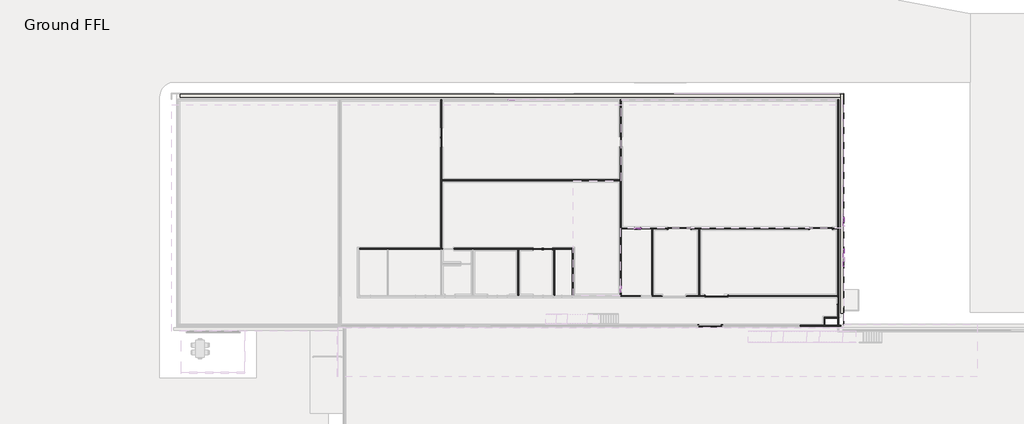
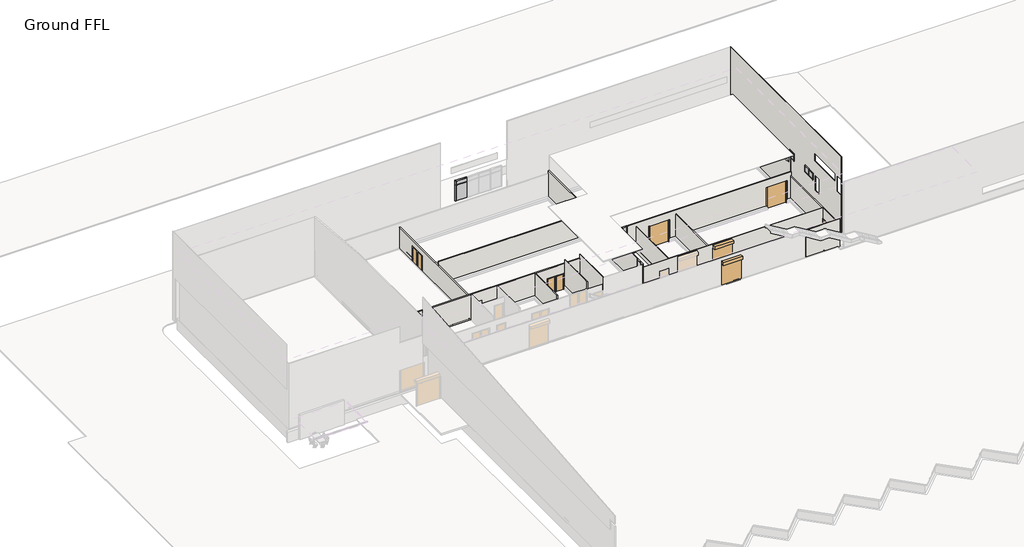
# One storey, part 4 of 7: 26 members, 19 walls, 10 doors, 7 plates.
"""IFC4 building model written with IfcOpenShell, lengths in millimetres."""

from ifc_helpers import new_model, si_unit, frame, origin, place, context, project, spatial, polyline, outline, extrude, faceted_brep, transform, mapped, element, save
from components import door_3f0b7e55, door_2c6974ce, m_single_flush_0813_x_2030mm_4a34e6f7, m_single_flush_1050_x_2134mm_707e642e, m_single_flush_1050_x_2134mm_0959f944, rectangular_mullion_50_x_150mm_662c37b1, rectangular_mullion_50_x_150mm_801ec5af, rectangular_mullion_50_x_150mm_6a0d20dd, rectangular_mullion_50_x_150mm_4b7bd92e, rectangular_mullion_50_x_150mm_35d6a770, rectangular_mullion_50_x_150mm_0d2ae8be, rectangular_mullion_50_x_150mm_eeb88b28, rectangular_mullion_50_x_150mm_3009440c, rectangular_mullion_50_x_150mm_3a6771bd, rectangular_mullion_50_x_150mm_7ee202ef, rectangular_mullion_50_x_150mm_849620c7, rectangular_mullion_50_x_150mm_64d38db8, rectangular_mullion_50_x_150mm_68b3818a, system_panel_glazed_79de342d, system_panel_glazed_73dfcaf4, system_panel_glazed_0650afbd, system_panel_glazed_b6d9ad77, system_panel_glazed_a5baa60f, system_panel_glazed_a4199f7b

model = new_model("IFC4")

# Units and contexts
model_context = context("Model", 3, world=origin())
ifc_project = project(units=[si_unit("LENGTHUNIT", "METRE", prefix="MILLI")], contexts=[model_context])

# Site, building, storey
site = spatial("IfcSite", under=ifc_project)
building = spatial("IfcBuilding", under=site)
storey = spatial("IfcBuildingStorey", under=building, Name="Ground FFL", Elevation=44170.0)

# Doors
placement = place(None, origin())
door_shape = door_3f0b7e55(model_context)
element("IfcDoor", 1, ObjectType="Rollershutter : 25000(w) x 3000(h)", at=placement, inside=storey, context=model_context, shape_type="MappedRepresentation", body=[
    mapped(door_shape, transform((-94937.9372768, 15157.4703267, 44170.0), x_axis=(-1.0, 0.0, 0.0), y_axis=(0.0, -1.0, 0.0), z_axis=(0.0, 0.0, 1.0))),
])
element("IfcDoor", 2, ObjectType="Rollershutter : 25000(w) x 3000(h)", at=placement, inside=storey, context=model_context, shape_type="MappedRepresentation", body=[
    mapped(door_shape, transform((-95625.8776883, 11958.2777512, 44170.0), x_axis=(-1.0, 0.0, 0.0), y_axis=(0.0, -1.0, 0.0), z_axis=(0.0, 0.0, 1.0))),
])
door_2_shape = door_2c6974ce(model_context)
element("IfcDoor", 3, ObjectType="Rollershutter : 25000(w) x 3000(h)", at=placement, inside=storey, context=model_context, shape_type="MappedRepresentation", body=[
    mapped(door_2_shape, transform((-83657.9372768, 22457.4703267, 44170.0), x_axis=(-1.0, 0.0, 0.0), y_axis=(0.0, -1.0, 0.0), z_axis=(0.0, 0.0, 1.0))),
])
element("IfcDoor", 4, ObjectType="Rollershutter : 25000(w) x 3000(h)", at=placement, inside=storey, context=model_context, shape_type="MappedRepresentation", body=[
    mapped(door_2_shape, transform((-98957.9372768, 22457.4703267, 44170.0), x_axis=(-1.0, 0.0, 0.0), y_axis=(0.0, -1.0, 0.0), z_axis=(0.0, 0.0, 1.0))),
])
m_single_flush_0813_x_2030mm_shape = m_single_flush_0813_x_2030mm_4a34e6f7(model_context)
element("IfcDoor", 5, ObjectType="M_Single-Flush : 0813 x 2030mm", at=placement, inside=storey, context=model_context, shape_type="MappedRepresentation", body=[
    mapped(m_single_flush_0813_x_2030mm_shape, transform((-81397.9372768, 14695.9703267, 44170.0), x_axis=(0.0, -1.0, 0.0), y_axis=(1.0, 0.0, 0.0), z_axis=(0.0, 0.0, 1.0))),
])
m_single_flush_1050_x_2134mm_shape = m_single_flush_1050_x_2134mm_707e642e(model_context)
element("IfcDoor", 6, ObjectType="M_Single-Flush : 1050 x 2134mm", at=placement, inside=storey, context=model_context, shape_type="MappedRepresentation", body=[
    mapped(m_single_flush_1050_x_2134mm_shape, transform((-113822.9372768, 20257.4925063, 44170.0), x_axis=(-1.0, 0.0, 0.0), y_axis=(0.0, -1.0, 0.0), z_axis=(0.0, 0.0, 1.0))),
])
element("IfcDoor", 7, ObjectType="M_Single-Flush : 1050 x 2134mm", at=placement, inside=storey, context=model_context, shape_type="MappedRepresentation", body=[
    mapped(m_single_flush_1050_x_2134mm_shape, transform((-104897.9372768, 31825.9151802, 44170.0), x_axis=(0.0, -1.0, 0.0), y_axis=(1.0, 0.0, 0.0), z_axis=(0.0, 0.0, 1.0))),
])
element("IfcDoor", 8, ObjectType="M_Single-Flush : 1050 x 2134mm", at=placement, inside=storey, context=model_context, shape_type="MappedRepresentation", body=[
    mapped(m_single_flush_1050_x_2134mm_shape, transform((-124297.9372768, 31765.9151802, 44170.0), x_axis=(0.0, -1.0, 0.0), y_axis=(1.0, 0.0, 0.0), z_axis=(0.0, 0.0, 1.0))),
])
m_single_flush_1050_x_2134mm_2_shape = m_single_flush_1050_x_2134mm_0959f944(model_context)
element("IfcDoor", 9, ObjectType="M_Single-Flush : 1050 x 2134mm", at=placement, inside=storey, context=model_context, shape_type="MappedRepresentation", body=[
    mapped(m_single_flush_1050_x_2134mm_2_shape, transform((-112812.9372768, 20257.4925063, 44170.0), x_axis=(1.0, 0.0, 0.0), y_axis=(0.0, 1.0, 0.0), z_axis=(0.0, 0.0, 1.0))),
])
element("IfcDoor", 10, ObjectType="M_Single-Flush : 1050 x 2134mm", at=placement, inside=storey, context=model_context, shape_type="MappedRepresentation", body=[
    mapped(m_single_flush_1050_x_2134mm_2_shape, transform((-124297.9372768, 32815.9151802, 44170.0), x_axis=(0.0, 1.0, 0.0), y_axis=(-1.0, 0.0, 0.0), z_axis=(0.0, 0.0, 1.0))),
])

# Members
rectangular_mullion_50_x_150mm_shape = rectangular_mullion_50_x_150mm_662c37b1(model_context)
element("IfcMember", 11, ObjectType="Rectangular Mullion : 50 x 150mm", at=placement, inside=storey, context=model_context, shape_type="MappedRepresentation", body=[
    mapped(rectangular_mullion_50_x_150mm_shape, transform((-102727.9372768, 22457.4703267, 44170.0), x_axis=(1.0, 0.0, 0.0), y_axis=(0.0, -1.0, 0.0), z_axis=(0.0, 0.0, -1.0))),
])
element("IfcMember", 12, ObjectType="Rectangular Mullion : 50 x 150mm", at=placement, inside=storey, context=model_context, shape_type="MappedRepresentation", body=[
    mapped(rectangular_mullion_50_x_150mm_shape, transform((-104897.9372768, 16267.4703267, 44170.0), x_axis=(0.0, 1.0, 0.0), y_axis=(1.0, 0.0, 0.0), z_axis=(0.0, 0.0, -1.0))),
])
element("IfcMember", 13, ObjectType="Rectangular Mullion : 50 x 150mm", at=placement, inside=storey, context=model_context, shape_type="MappedRepresentation", body=[
    mapped(rectangular_mullion_50_x_150mm_shape, transform((-103427.9372768, 22457.4703267, 46570.0), x_axis=(-1.0, 0.0, 0.0), y_axis=(0.0, -1.0, 0.0), z_axis=(0.0, 0.0, 1.0))),
])
rectangular_mullion_50_x_150mm_2_shape = rectangular_mullion_50_x_150mm_801ec5af(model_context)
element("IfcMember", 14, ObjectType="Rectangular Mullion : 50 x 150mm", at=placement, inside=storey, context=model_context, shape_type="MappedRepresentation", body=[
    mapped(rectangular_mullion_50_x_150mm_2_shape, transform((-80781.5917799, 20249.2777512, 49340.539651), x_axis=(0.0, 1.0, 0.0), y_axis=(1.0, 0.0, 0.0), z_axis=(0.0, 0.0, -1.0))),
])
element("IfcMember", 15, ObjectType="Rectangular Mullion : 50 x 150mm", at=placement, inside=storey, context=model_context, shape_type="MappedRepresentation", body=[
    mapped(rectangular_mullion_50_x_150mm_2_shape, transform((-80781.5917799, 18349.2777512, 50260.539651), x_axis=(0.0, -1.0, 0.0), y_axis=(1.0, 0.0, 0.0), z_axis=(0.0, 0.0, 1.0))),
])
rectangular_mullion_50_x_150mm_3_shape = rectangular_mullion_50_x_150mm_6a0d20dd(model_context)
element("IfcMember", 16, ObjectType="Rectangular Mullion : 50 x 150mm", at=placement, inside=storey, context=model_context, shape_type="MappedRepresentation", body=[
    mapped(rectangular_mullion_50_x_150mm_3_shape, transform((-80781.5917799, 20199.2777512, 50260.539651), x_axis=(0.0, 0.0, 1.0), y_axis=(1.0, 0.0, 0.0), z_axis=(0.0, 1.0, 0.0))),
])
element("IfcMember", 17, ObjectType="Rectangular Mullion : 50 x 150mm", at=placement, inside=storey, context=model_context, shape_type="MappedRepresentation", body=[
    mapped(rectangular_mullion_50_x_150mm_3_shape, transform((-80781.5917799, 19274.2777512, 50260.539651), x_axis=(0.0, 0.0, 1.0), y_axis=(1.0, 0.0, 0.0), z_axis=(0.0, 1.0, 0.0))),
])
element("IfcMember", 18, ObjectType="Rectangular Mullion : 50 x 150mm", at=placement, inside=storey, context=model_context, shape_type="MappedRepresentation", body=[
    mapped(rectangular_mullion_50_x_150mm_3_shape, transform((-80781.5917799, 18399.2777512, 49340.539651), x_axis=(0.0, 0.0, -1.0), y_axis=(1.0, 0.0, 0.0), z_axis=(0.0, -1.0, 0.0))),
])
element("IfcMember", 19, ObjectType="Rectangular Mullion : 50 x 150mm", at=placement, inside=storey, context=model_context, shape_type="MappedRepresentation", body=[
    mapped(rectangular_mullion_50_x_150mm_3_shape, transform((-80781.5917799, 19324.2777512, 49340.539651), x_axis=(0.0, 0.0, -1.0), y_axis=(1.0, 0.0, 0.0), z_axis=(0.0, -1.0, 0.0))),
])
rectangular_mullion_50_x_150mm_4_shape = rectangular_mullion_50_x_150mm_4b7bd92e(model_context)
element("IfcMember", 20, ObjectType="Rectangular Mullion : 50 x 150mm", at=placement, inside=storey, context=model_context, shape_type="MappedRepresentation", body=[
    mapped(rectangular_mullion_50_x_150mm_4_shape, transform((-80781.5917799, 19299.2777512, 49340.539651), x_axis=(0.0, 1.0, 0.0), y_axis=(1.0, 0.0, 0.0), z_axis=(0.0, 0.0, -1.0))),
])
rectangular_mullion_50_x_150mm_5_shape = rectangular_mullion_50_x_150mm_35d6a770(model_context)
element("IfcMember", 21, ObjectType="Rectangular Mullion : 50 x 150mm", at=placement, inside=storey, context=model_context, shape_type="MappedRepresentation", body=[
    mapped(rectangular_mullion_50_x_150mm_5_shape, transform((-80781.5917799, 23644.7192501, 50300.539651), x_axis=(0.0, 0.0, 1.0), y_axis=(1.0, 0.0, 0.0), z_axis=(0.0, 1.0, 0.0))),
])
element("IfcMember", 22, ObjectType="Rectangular Mullion : 50 x 150mm", at=placement, inside=storey, context=model_context, shape_type="MappedRepresentation", body=[
    mapped(rectangular_mullion_50_x_150mm_5_shape, transform((-80781.5917799, 22744.7192501, 49300.539651), x_axis=(0.0, 0.0, -1.0), y_axis=(1.0, 0.0, 0.0), z_axis=(0.0, -1.0, 0.0))),
])
rectangular_mullion_50_x_150mm_6_shape = rectangular_mullion_50_x_150mm_0d2ae8be(model_context)
element("IfcMember", 23, ObjectType="Rectangular Mullion : 50 x 150mm", at=placement, inside=storey, context=model_context, shape_type="MappedRepresentation", body=[
    mapped(rectangular_mullion_50_x_150mm_6_shape, transform((-116991.9650837, 36380.969902, 50970.0), x_axis=(0.0, 0.0, 1.0), y_axis=(0.0, 1.0, 0.0), z_axis=(-1.0, 0.0, 0.0))),
])
rectangular_mullion_50_x_150mm_7_shape = rectangular_mullion_50_x_150mm_eeb88b28(model_context)
element("IfcMember", 24, ObjectType="Rectangular Mullion : 50 x 150mm", at=placement, inside=storey, context=model_context, shape_type="MappedRepresentation", body=[
    mapped(rectangular_mullion_50_x_150mm_7_shape, transform((-80781.5917799, 23694.7192501, 49300.539651), x_axis=(0.0, 1.0, 0.0), y_axis=(1.0, 0.0, 0.0), z_axis=(0.0, 0.0, -1.0))),
])
element("IfcMember", 25, ObjectType="Rectangular Mullion : 50 x 150mm", at=placement, inside=storey, context=model_context, shape_type="MappedRepresentation", body=[
    mapped(rectangular_mullion_50_x_150mm_7_shape, transform((-80781.5917799, 22694.7192501, 50300.539651), x_axis=(0.0, -1.0, 0.0), y_axis=(1.0, 0.0, 0.0), z_axis=(0.0, 0.0, 1.0))),
])
rectangular_mullion_50_x_150mm_8_shape = rectangular_mullion_50_x_150mm_3009440c(model_context)
element("IfcMember", 26, ObjectType="Rectangular Mullion : 50 x 150mm", at=placement, inside=storey, context=model_context, shape_type="MappedRepresentation", body=[
    mapped(rectangular_mullion_50_x_150mm_8_shape, transform((-116991.9650837, 36380.969902, 50390.0), x_axis=(0.0, 0.0, 1.0), y_axis=(0.0, 1.0, 0.0), z_axis=(-1.0, 0.0, 0.0))),
])
rectangular_mullion_50_x_150mm_9_shape = rectangular_mullion_50_x_150mm_3a6771bd(model_context)
element("IfcMember", 27, ObjectType="Rectangular Mullion : 50 x 150mm", at=placement, inside=storey, context=model_context, shape_type="MappedRepresentation", body=[
    mapped(rectangular_mullion_50_x_150mm_9_shape, transform((-117041.9650837, 36380.969902, 48170.0), x_axis=(-1.0, 0.0, 0.0), y_axis=(0.0, 1.0, 0.0), z_axis=(0.0, 0.0, -1.0))),
])
rectangular_mullion_50_x_150mm_10_shape = rectangular_mullion_50_x_150mm_7ee202ef(model_context)
element("IfcMember", 28, ObjectType="Rectangular Mullion : 50 x 150mm", at=placement, inside=storey, context=model_context, shape_type="MappedRepresentation", body=[
    mapped(rectangular_mullion_50_x_150mm_10_shape, transform((-117041.9650837, 36380.969902, 50390.0), x_axis=(-1.0, 0.0, 0.0), y_axis=(0.0, 1.0, 0.0), z_axis=(0.0, 0.0, -1.0))),
])
rectangular_mullion_50_x_150mm_11_shape = rectangular_mullion_50_x_150mm_849620c7(model_context)
element("IfcMember", 29, ObjectType="Rectangular Mullion : 50 x 150mm", at=placement, inside=storey, context=model_context, shape_type="MappedRepresentation", body=[
    mapped(rectangular_mullion_50_x_150mm_11_shape, transform((-102727.9372768, 22457.4703267, 46570.0), x_axis=(1.0, 0.0, 0.0), y_axis=(0.0, -1.0, 0.0), z_axis=(0.0, 0.0, -1.0))),
])
element("IfcMember", 30, ObjectType="Rectangular Mullion : 50 x 150mm", at=placement, inside=storey, context=model_context, shape_type="MappedRepresentation", body=[
    mapped(rectangular_mullion_50_x_150mm_11_shape, transform((-104897.9372768, 16267.4703267, 46570.0), x_axis=(0.0, 1.0, 0.0), y_axis=(1.0, 0.0, 0.0), z_axis=(0.0, 0.0, -1.0))),
])
element("IfcMember", 31, ObjectType="Rectangular Mullion : 50 x 150mm", at=placement, inside=storey, context=model_context, shape_type="MappedRepresentation", body=[
    mapped(rectangular_mullion_50_x_150mm_11_shape, transform((-103427.9372768, 22457.4703267, 48170.0), x_axis=(-1.0, 0.0, 0.0), y_axis=(0.0, -1.0, 0.0), z_axis=(0.0, 0.0, 1.0))),
])
rectangular_mullion_50_x_150mm_12_shape = rectangular_mullion_50_x_150mm_64d38db8(model_context)
element("IfcMember", 32, ObjectType="Rectangular Mullion : 50 x 150mm", at=placement, inside=storey, context=model_context, shape_type="MappedRepresentation", body=[
    mapped(rectangular_mullion_50_x_150mm_12_shape, transform((-102777.9372768, 22457.4703267, 48170.0), x_axis=(0.0, 0.0, 1.0), y_axis=(0.0, -1.0, 0.0), z_axis=(1.0, 0.0, 0.0))),
])
element("IfcMember", 33, ObjectType="Rectangular Mullion : 50 x 150mm", at=placement, inside=storey, context=model_context, shape_type="MappedRepresentation", body=[
    mapped(rectangular_mullion_50_x_150mm_12_shape, transform((-104897.9372768, 16217.4703267, 48170.0), x_axis=(0.0, 0.0, 1.0), y_axis=(1.0, 0.0, 0.0), z_axis=(0.0, 1.0, 0.0))),
])
element("IfcMember", 34, ObjectType="Rectangular Mullion : 50 x 150mm", at=placement, inside=storey, context=model_context, shape_type="MappedRepresentation", body=[
    mapped(rectangular_mullion_50_x_150mm_12_shape, transform((-103377.9372768, 22457.4703267, 44170.0), x_axis=(0.0, 0.0, -1.0), y_axis=(0.0, -1.0, 0.0), z_axis=(-1.0, 0.0, 0.0))),
])
rectangular_mullion_50_x_150mm_13_shape = rectangular_mullion_50_x_150mm_68b3818a(model_context)
element("IfcMember", 35, ObjectType="Rectangular Mullion : 50 x 150mm", at=placement, inside=storey, context=model_context, shape_type="MappedRepresentation", body=[
    mapped(rectangular_mullion_50_x_150mm_13_shape, transform((-102777.9372768, 22457.4703267, 46570.0), x_axis=(0.0, 0.0, 1.0), y_axis=(0.0, -1.0, 0.0), z_axis=(1.0, 0.0, 0.0))),
])
element("IfcMember", 36, ObjectType="Rectangular Mullion : 50 x 150mm", at=placement, inside=storey, context=model_context, shape_type="MappedRepresentation", body=[
    mapped(rectangular_mullion_50_x_150mm_13_shape, transform((-104897.9372768, 16217.4703267, 46570.0), x_axis=(0.0, 0.0, 1.0), y_axis=(1.0, 0.0, 0.0), z_axis=(0.0, 1.0, 0.0))),
])

# Plates
system_panel_glazed_shape = system_panel_glazed_79de342d(model_context)
element("IfcPlate", 37, ObjectType="System Panel : Glazed", at=placement, inside=storey, context=model_context, shape_type="MappedRepresentation", body=[
    mapped(system_panel_glazed_shape, transform((-80781.5917799, 18836.7777512, 49390.539651), x_axis=(0.0, 1.0, 0.0), y_axis=(-1.0, 0.0, 0.0), z_axis=(0.0, 0.0, 1.0))),
])
element("IfcPlate", 38, ObjectType="System Panel : Glazed", at=placement, inside=storey, context=model_context, shape_type="MappedRepresentation", body=[
    mapped(system_panel_glazed_shape, transform((-80781.5917799, 19761.7777512, 49390.539651), x_axis=(0.0, 1.0, 0.0), y_axis=(-1.0, 0.0, 0.0), z_axis=(0.0, 0.0, 1.0))),
])
system_panel_glazed_2_shape = system_panel_glazed_73dfcaf4(model_context)
element("IfcPlate", 39, ObjectType="System Panel : Glazed", at=placement, inside=storey, context=model_context, shape_type="MappedRepresentation", body=[
    mapped(system_panel_glazed_2_shape, transform((-116277.0557698, 36380.969902, 48220.0), x_axis=(-1.0, 0.0, 0.0), y_axis=(0.0, -1.0, 0.0), z_axis=(0.0, 0.0, 1.0))),
])
system_panel_glazed_3_shape = system_panel_glazed_0650afbd(model_context)
element("IfcPlate", 40, ObjectType="System Panel : Glazed", at=placement, inside=storey, context=model_context, shape_type="MappedRepresentation", body=[
    mapped(system_panel_glazed_3_shape, transform((-116277.0557698, 36380.969902, 50415.0), x_axis=(-1.0, 0.0, 0.0), y_axis=(0.0, -1.0, 0.0), z_axis=(0.0, 0.0, 1.0))),
])
system_panel_glazed_4_shape = system_panel_glazed_b6d9ad77(model_context)
element("IfcPlate", 41, ObjectType="System Panel : Glazed", at=placement, inside=storey, context=model_context, shape_type="MappedRepresentation", body=[
    mapped(system_panel_glazed_4_shape, transform((-103077.9372768, 22457.4703267, 44220.0), x_axis=(1.0, 0.0, 0.0), y_axis=(0.0, 1.0, 0.0), z_axis=(0.0, 0.0, 1.0))),
])
system_panel_glazed_5_shape = system_panel_glazed_a5baa60f(model_context)
element("IfcPlate", 42, ObjectType="System Panel : Glazed", at=placement, inside=storey, context=model_context, shape_type="MappedRepresentation", body=[
    mapped(system_panel_glazed_5_shape, transform((-103077.9372768, 22457.4703267, 46595.0), x_axis=(1.0, 0.0, 0.0), y_axis=(0.0, 1.0, 0.0), z_axis=(0.0, 0.0, 1.0))),
])
system_panel_glazed_6_shape = system_panel_glazed_a4199f7b(model_context)
element("IfcPlate", 43, ObjectType="System Panel : Glazed", at=placement, inside=storey, context=model_context, shape_type="MappedRepresentation", body=[
    mapped(system_panel_glazed_6_shape, transform((-80781.5917799, 23194.7192501, 49350.539651), x_axis=(0.0, 1.0, 0.0), y_axis=(-1.0, 0.0, 0.0), z_axis=(0.0, 0.0, 1.0))),
])

# Walls
element("IfcWall", 44, ObjectType="Isopanel", at=placement, inside=storey, context=model_context, shape_type="SweptSolid", body=[
    extrude(outline(polyline([(-96347.9372768, 22407.4703267), (-96347.9372768, 15207.4703267), (-96447.9372768, 15207.4703267), (-96447.9372768, 22407.4703267), (-96347.9372768, 22407.4703267)])), frame((0.0, 0.0, 44170.0), z_axis=(0.0, 0.0, 1.0), x_axis=(1.0, 0.0, 0.0)), (0.0, 0.0, 1.0), 3500.0),
])
element("IfcWall", 45, ObjectType="Isopanel", at=placement, inside=storey, context=model_context, shape_type="SweptSolid", body=[
    extrude(outline(polyline([(-101447.9372768, 22407.4703267), (-101447.9372768, 15207.4703267), (-101547.9372768, 15207.4703267), (-101547.9372768, 22407.4703267), (-101447.9372768, 22407.4703267)])), frame((0.0, 0.0, 44170.0), z_axis=(0.0, 0.0, 1.0), x_axis=(1.0, 0.0, 0.0)), (0.0, 0.0, 1.0), 3500.0),
])
element("IfcWall", 46, ObjectType="Isopanel", at=placement, inside=storey, context=model_context, shape_type="Brep", body=[
    faceted_brep([(-104847.9372768, 22507.4703267, 44170.0), (-104847.9372768, 22507.4703267, 48170.0), (-103427.9372768, 22507.4703267, 48170.0), (-103427.9372768, 22507.4703267, 44170.0), (-104847.9372768, 22407.4703267, 48170.0), (-104847.9372768, 22407.4703267, 44170.0), (-103427.9372768, 22407.4703267, 44170.0), (-103427.9372768, 22407.4703267, 48170.0)], [[[0, 1, 2, 3]], [[4, 5, 6, 7]], [[5, 0, 3, 6]], [[1, 4, 7, 2]], [[1, 0, 5, 4]], [[3, 2, 7, 6]]]),
    faceted_brep([(-81347.9372768, 22507.4703267, 48170.0), (-81347.9372768, 22507.4703267, 44670.0), (-81347.9372768, 22507.4703267, 44170.0), (-82007.9372768, 22507.4703267, 44170.0), (-82007.9372768, 22507.4703267, 47170.0), (-84507.9372768, 22507.4703267, 47170.0), (-84507.9372768, 22507.4703267, 44170.0), (-97307.9372768, 22507.4703267, 44170.0), (-97307.9372768, 22507.4703267, 47170.0), (-99807.9372768, 22507.4703267, 47170.0), (-99807.9372768, 22507.4703267, 44170.0), (-102727.9372768, 22507.4703267, 44170.0), (-102727.9372768, 22507.4703267, 48170.0), (-81347.9372768, 22407.4703267, 44170.0), (-81347.9372768, 22407.4703267, 47670.0), (-81347.9372768, 22407.4703267, 48170.0), (-102727.9372768, 22407.4703267, 48170.0), (-102727.9372768, 22407.4703267, 44170.0), (-101547.9372768, 22407.4703267, 44170.0), (-101447.9372768, 22407.4703267, 44170.0), (-99807.9372768, 22407.4703267, 44170.0), (-99807.9372768, 22407.4703267, 47170.0), (-97307.9372768, 22407.4703267, 47170.0), (-97307.9372768, 22407.4703267, 44170.0), (-96447.9372768, 22407.4703267, 44170.0), (-96347.9372768, 22407.4703267, 44170.0), (-84507.9372768, 22407.4703267, 44170.0), (-84507.9372768, 22407.4703267, 47170.0), (-82007.9372768, 22407.4703267, 47170.0), (-82007.9372768, 22407.4703267, 44170.0), (-81447.9372768, 22407.4703267, 44170.0)], [[[0, 1, 2, 3, 4, 5, 6, 7, 8, 9, 10, 11, 12]], [[13, 14, 15, 16, 17, 18, 19, 20, 21, 22, 23, 24, 25, 26, 27, 28, 29, 30]], [[2, 13, 30, 29, 3]], [[17, 11, 10, 20, 19, 18]], [[6, 26, 25, 24, 23, 7]], [[15, 0, 12, 16]], [[2, 1, 0, 15, 14, 13]], [[12, 11, 17, 16]], [[5, 27, 26, 6]], [[27, 5, 4, 28]], [[28, 4, 3, 29]], [[9, 21, 20, 10]], [[21, 9, 8, 22]], [[22, 8, 7, 23]]]),
])
element("IfcWall", 47, ObjectType="Isopanel", at=placement, inside=storey, context=model_context, shape_type="Brep", body=[
    faceted_brep([(-104847.9372768, 36355.969902, 44170.0), (-104847.9372768, 36355.969902, 48170.0), (-104847.9372768, 22507.4703267, 48170.0), (-104847.9372768, 22407.4703267, 48170.0), (-104847.9372768, 16267.4703267, 48170.0), (-104847.9372768, 16267.4703267, 44170.0), (-104847.9372768, 22407.4703267, 44170.0), (-104847.9372768, 22507.4703267, 44170.0), (-104847.9372768, 31300.9151802, 44170.0), (-104847.9372768, 31300.9151802, 46304.0), (-104847.9372768, 32350.9151802, 46304.0), (-104847.9372768, 32350.9151802, 44170.0), (-104947.9372768, 36355.969902, 48170.0), (-104947.9372768, 36355.969902, 44170.0), (-104947.9372768, 32350.9151802, 44170.0), (-104947.9372768, 32350.9151802, 46304.0), (-104947.9372768, 31300.9151802, 46304.0), (-104947.9372768, 31300.9151802, 44170.0), (-104947.9372768, 27708.4151802, 44170.0), (-104947.9372768, 27608.4151802, 44170.0), (-104947.9372768, 16267.4703267, 44170.0), (-104947.9372768, 16267.4703267, 48170.0)], [[[0, 1, 2, 3, 4, 5, 6, 7, 8, 9, 10, 11]], [[12, 13, 14, 15, 16, 17, 18, 19, 20, 21]], [[13, 0, 11, 14]], [[17, 8, 7, 6, 5, 20, 19, 18]], [[1, 12, 21, 4, 3, 2]], [[1, 0, 13, 12]], [[9, 8, 17, 16]], [[10, 9, 16, 15]], [[11, 10, 15, 14]], [[5, 4, 21, 20]]]),
    faceted_brep([(-104847.9372768, 15107.4703267, 48170.0), (-104847.9372768, 15107.4703267, 47670.0), (-104847.9372768, 15107.4703267, 44170.0), (-104847.9372768, 15207.4703267, 44170.0), (-104847.9372768, 15567.4703267, 44170.0), (-104847.9372768, 15567.4703267, 48170.0), (-104947.9372768, 15107.4703267, 44170.0), (-104947.9372768, 15107.4703267, 48041.6656911), (-104947.9372768, 15107.4703267, 48170.0), (-104947.9372768, 15567.4703267, 48170.0), (-104947.9372768, 15567.4703267, 44170.0), (-104947.9372768, 15207.4703267, 44170.0)], [[[0, 1, 2, 3, 4, 5]], [[6, 7, 8, 9, 10, 11]], [[2, 6, 11, 10, 4, 3]], [[8, 0, 5, 9]], [[6, 2, 1, 0, 8, 7]], [[5, 4, 10, 9]]]),
])
element("IfcWall", 48, ObjectType="300 bund wall", at=placement, inside=storey, context=model_context, shape_type="Brep", body=[
    faceted_brep([(-81100.5917799, 36973.4058517, 42669.4970536), (-81100.5917799, 13319.2679026, 42669.4970536), (-81100.5917799, 13319.2679026, 44170.0), (-81100.5917799, 36673.4058517, 44170.0), (-81100.5917799, 36973.4058517, 44170.0), (-81100.5917799, 36973.4058517, 42670.0), (-80800.5917799, 36973.4058517, 42669.4970536), (-80800.5917799, 36973.4058517, 44170.0), (-80800.5917799, 13319.2679026, 44170.0), (-80800.5917799, 13319.2679026, 42669.4970536)], [[[0, 1, 2, 3, 4, 5]], [[6, 7, 8, 9]], [[0, 5, 4, 7, 6]], [[1, 0, 6, 9]], [[2, 1, 9, 8]], [[4, 3, 2, 8, 7]]]),
])
element("IfcWall", 49, ObjectType="300 bund wall", at=placement, inside=storey, context=model_context, shape_type="SweptSolid", body=[
    extrude(outline(polyline([(-152598.6902477, 36973.4058517), (-81100.5917799, 36973.4058517), (-81100.5917799, 36673.4058517), (-152598.6902477, 36673.4058517), (-152598.6902477, 36973.4058517)])), frame((0.0, 0.0, 42670.0), z_axis=(0.0, 0.0, 1.0), x_axis=(1.0, 0.0, 0.0)), (0.0, 0.0, 1.0), 1500.0),
])
element("IfcWall", 50, ObjectType="Isopanel", at=placement, inside=storey, context=model_context, shape_type="Brep", body=[
    faceted_brep([(-104847.9372768, 15207.4703267, 47670.0), (-101547.9372768, 15207.4703267, 47670.0), (-101447.9372768, 15207.4703267, 47670.0), (-96447.9372768, 15207.4703267, 47670.0), (-96347.9372768, 15207.4703267, 47670.0), (-81447.9372768, 15207.4703267, 47670.0), (-81447.9372768, 15207.4703267, 44170.0), (-93287.9372768, 15207.4703267, 44170.0), (-93287.9372768, 15207.4703267, 47170.0), (-95787.9372768, 15207.4703267, 47170.0), (-95787.9372768, 15207.4703267, 44170.0), (-96347.9372768, 15207.4703267, 44170.0), (-96447.9372768, 15207.4703267, 44170.0), (-97877.9372768, 15207.4703267, 44170.0), (-97877.9372768, 15207.4703267, 47170.0), (-100377.9372768, 15207.4703267, 47170.0), (-100377.9372768, 15207.4703267, 44170.0), (-101447.9372768, 15207.4703267, 44170.0), (-101547.9372768, 15207.4703267, 44170.0), (-101597.9372768, 15207.4703267, 44170.0), (-101597.9372768, 15207.4703267, 46304.0), (-102647.9372768, 15207.4703267, 46304.0), (-102647.9372768, 15207.4703267, 44170.0), (-104847.9372768, 15207.4703267, 44170.0), (-81447.9372768, 15107.4703267, 47670.0), (-104847.9372768, 15107.4703267, 47670.0), (-104847.9372768, 15107.4703267, 44170.0), (-102647.9372768, 15107.4703267, 44170.0), (-102647.9372768, 15107.4703267, 46304.0), (-101597.9372768, 15107.4703267, 46304.0), (-101597.9372768, 15107.4703267, 44170.0), (-100377.9372768, 15107.4703267, 44170.0), (-100377.9372768, 15107.4703267, 47170.0), (-97877.9372768, 15107.4703267, 47170.0), (-97877.9372768, 15107.4703267, 44170.0), (-95787.9372768, 15107.4703267, 44170.0), (-95787.9372768, 15107.4703267, 47170.0), (-93287.9372768, 15107.4703267, 47170.0), (-93287.9372768, 15107.4703267, 44170.0), (-81447.9372768, 15107.4703267, 44170.0)], [[[0, 1, 2, 3, 4, 5, 6, 7, 8, 9, 10, 11, 12, 13, 14, 15, 16, 17, 18, 19, 20, 21, 22, 23]], [[24, 25, 26, 27, 28, 29, 30, 31, 32, 33, 34, 35, 36, 37, 38, 39]], [[6, 39, 38, 7]], [[26, 23, 22, 27]], [[30, 19, 18, 17, 16, 31]], [[10, 35, 34, 13, 12, 11]], [[5, 4, 3, 2, 1, 0, 25, 24]], [[6, 5, 24, 39]], [[0, 23, 26, 25]], [[9, 36, 35, 10]], [[36, 9, 8, 37]], [[37, 8, 7, 38]], [[20, 19, 30, 29]], [[21, 20, 29, 28]], [[22, 21, 28, 27]], [[33, 14, 13, 34]], [[14, 33, 32, 15]], [[15, 32, 31, 16]]]),
])
element("IfcWall", 51, ObjectType="Isopanel", at=placement, inside=storey, context=model_context, shape_type="Brep", body=[
    faceted_brep([(-81347.9372768, 22507.4703267, 50170.0), (-81347.9372768, 22507.4703267, 48170.0), (-81347.9372768, 22507.4703267, 44670.0), (-81347.9372768, 36355.969902, 44670.0), (-81347.9372768, 36355.969902, 50120.0), (-81347.9372768, 36355.969902, 50170.0), (-81347.9372768, 23694.7192501, 50170.0), (-81347.9372768, 23694.7192501, 49270.0), (-81347.9372768, 22694.7192501, 49270.0), (-81347.9372768, 22694.7192501, 50170.0), (-81447.9372768, 22507.4703267, 44670.0), (-81447.9372768, 22507.4703267, 50170.0), (-81447.9372768, 22694.7192501, 50170.0), (-81447.9372768, 22694.7192501, 49270.0), (-81447.9372768, 23694.7192501, 49270.0), (-81447.9372768, 23694.7192501, 50170.0), (-81447.9372768, 36355.969902, 50170.0), (-81447.9372768, 36355.969902, 44670.0)], [[[0, 1, 2, 3, 4, 5, 6, 7, 8, 9]], [[10, 11, 12, 13, 14, 15, 16, 17]], [[5, 4, 3, 17, 16]], [[0, 11, 10, 2, 1]], [[3, 2, 10, 17]], [[6, 5, 16, 15]], [[7, 6, 15, 14]], [[8, 7, 14, 13]], [[9, 8, 13, 12]], [[0, 9, 12, 11]]]),
])
element("IfcWall", 52, ObjectType="Isopanel", at=placement, inside=storey, context=model_context, shape_type="Brep", body=[
    faceted_brep([(-133147.9372768, 20307.4925063, 47670.0), (-110127.9372768, 20307.4925063, 47670.0), (-110127.9372768, 20307.4925063, 44170.0), (-112287.9372768, 20307.4925063, 44170.0), (-112287.9372768, 20307.4925063, 46304.0), (-114347.9372768, 20307.4925063, 46304.0), (-114347.9372768, 20307.4925063, 44170.0), (-123027.3747667, 20307.4925063, 44170.0), (-123027.3747667, 20307.4925063, 46304.0), (-124077.3747667, 20307.4925063, 46304.0), (-124077.3747667, 20307.4925063, 44170.0), (-124247.9372768, 20307.4925063, 44170.0), (-124347.9372768, 20307.4925063, 44170.0), (-133147.9372768, 20307.4925063, 44170.0), (-110127.9372768, 20207.4925063, 47670.0), (-115927.3747667, 20207.4925063, 47670.0), (-116027.3747667, 20207.4925063, 47670.0), (-120827.3747667, 20207.4925063, 47670.0), (-120927.3747667, 20207.4925063, 47670.0), (-124247.9372768, 20207.4925063, 47670.0), (-124347.9372768, 20207.4925063, 47670.0), (-130047.9372768, 20207.4925063, 47670.0), (-130147.9372768, 20207.4925063, 47670.0), (-133147.9372768, 20207.4925063, 47670.0), (-133147.9372768, 20207.4925063, 44170.0), (-130147.9372768, 20207.4925063, 44170.0), (-130047.9372768, 20207.4925063, 44170.0), (-124347.9372768, 20207.4925063, 44170.0), (-124247.9372768, 20207.4925063, 44170.0), (-124077.3747667, 20207.4925063, 44170.0), (-124077.3747667, 20207.4925063, 46304.0), (-123027.3747667, 20207.4925063, 46304.0), (-123027.3747667, 20207.4925063, 44170.0), (-120927.3747667, 20207.4925063, 44170.0), (-120827.3747667, 20207.4925063, 44170.0), (-116027.3747667, 20207.4925063, 44170.0), (-115927.3747667, 20207.4925063, 44170.0), (-114347.9372768, 20207.4925063, 44170.0), (-114347.9372768, 20207.4925063, 46304.0), (-112287.9372768, 20207.4925063, 46304.0), (-112287.9372768, 20207.4925063, 44170.0), (-112127.3747667, 20207.4925063, 44170.0), (-112027.3747667, 20207.4925063, 44170.0), (-110127.9372768, 20207.4925063, 44170.0)], [[[0, 1, 2, 3, 4, 5, 6, 7, 8, 9, 10, 11, 12, 13]], [[14, 15, 16, 17, 18, 19, 20, 21, 22, 23, 24, 25, 26, 27, 28, 29, 30, 31, 32, 33, 34, 35, 36, 37, 38, 39, 40, 41, 42, 43]], [[10, 29, 28, 27, 26, 25, 24, 13, 12, 11]], [[32, 7, 6, 37, 36, 35, 34, 33]], [[2, 43, 42, 41, 40, 3]], [[1, 0, 23, 22, 21, 20, 19, 18, 17, 16, 15, 14]], [[30, 29, 10, 9]], [[31, 30, 9, 8]], [[32, 31, 8, 7]], [[38, 37, 6, 5]], [[38, 5, 4, 39]], [[39, 4, 3, 40]], [[2, 1, 14, 43]], [[0, 13, 24, 23]]]),
])
element("IfcWall", 53, ObjectType="Isopanel", at=placement, inside=storey, context=model_context, shape_type="SweptSolid", body=[
    extrude(outline(polyline([(-116027.3747667, 15207.4703267), (-116027.3747667, 20207.4925063), (-115927.3747667, 20207.4925063), (-115927.3747667, 15207.4703267), (-116027.3747667, 15207.4703267)])), frame((0.0, 0.0, 44170.0), z_axis=(0.0, 0.0, 1.0), x_axis=(1.0, 0.0, 0.0)), (0.0, 0.0, 1.0), 3500.0),
])
element("IfcWall", 54, ObjectType="Isopanel", at=placement, inside=storey, context=model_context, shape_type="Brep", body=[
    faceted_brep([(-110127.9372768, 20307.4925063, 44170.0), (-110127.9372768, 20207.4925063, 44170.0), (-110127.9372768, 15207.4703267, 44170.0), (-110127.9372768, 15107.4703267, 44170.0), (-110127.9372768, 15107.4703267, 47170.0), (-110127.9372768, 15107.4703267, 48170.0), (-110127.9372768, 20307.4925063, 48170.0), (-110127.9372768, 20307.4925063, 47670.0), (-110027.9372768, 20307.4925063, 44170.0), (-110027.9372768, 20307.4925063, 48170.0), (-110027.9372768, 15107.4703267, 48170.0), (-110027.9372768, 15107.4703267, 44170.0)], [[[0, 1, 2, 3, 4, 5, 6, 7]], [[8, 9, 10, 11]], [[3, 2, 1, 0, 8, 11]], [[6, 5, 10, 9]], [[0, 7, 6, 9, 8]], [[5, 4, 3, 11, 10]]]),
])
element("IfcWall", 55, ObjectType="Isopanel", at=placement, inside=storey, context=model_context, shape_type="Brep", body=[
    faceted_brep([(-81347.9372768, 22407.4703267, 47670.0), (-81347.9372768, 12008.2777512, 47670.0), (-81347.9372768, 12008.2777512, 44170.0), (-81347.9372768, 12067.9873575, 44170.0), (-81347.9372768, 12067.9873575, 44840.0), (-81347.9372768, 12767.9873575, 44840.0), (-81347.9372768, 12767.9873575, 44170.0), (-81347.9372768, 14289.4703267, 44170.0), (-81347.9372768, 14289.4703267, 46200.0), (-81347.9372768, 15102.4703267, 46200.0), (-81347.9372768, 15102.4703267, 44170.0), (-81347.9372768, 22407.4703267, 44170.0), (-81447.9372768, 12008.2777512, 47670.0), (-81447.9372768, 15107.4703267, 47670.0), (-81447.9372768, 15207.4703267, 47670.0), (-81447.9372768, 22407.4703267, 47670.0), (-81447.9372768, 22407.4703267, 44170.0), (-81447.9372768, 15207.4703267, 44170.0), (-81447.9372768, 15107.4703267, 44170.0), (-81447.9372768, 15102.4703267, 44170.0), (-81447.9372768, 15102.4703267, 46200.0), (-81447.9372768, 14289.4703267, 46200.0), (-81447.9372768, 14289.4703267, 44170.0), (-81447.9372768, 12767.9873575, 44170.0), (-81447.9372768, 12767.9873575, 44840.0), (-81447.9372768, 12067.9873575, 44840.0), (-81447.9372768, 12067.9873575, 44170.0), (-81447.9372768, 12008.2777512, 44170.0)], [[[0, 1, 2, 3, 4, 5, 6, 7, 8, 9, 10, 11]], [[12, 13, 14, 15, 16, 17, 18, 19, 20, 21, 22, 23, 24, 25, 26, 27]], [[16, 11, 10, 19, 18, 17]], [[22, 7, 6, 23]], [[2, 27, 26, 3]], [[1, 0, 15, 14, 13, 12]], [[0, 11, 16, 15]], [[8, 7, 22, 21]], [[9, 8, 21, 20]], [[10, 9, 20, 19]], [[4, 25, 24, 5]], [[5, 24, 23, 6]], [[25, 4, 3, 26]], [[2, 1, 12, 27]]]),
])
element("IfcWall", 56, ObjectType="Isopanel", at=placement, inside=storey, context=model_context, shape_type="Brep", body=[
    faceted_brep([(-124347.9372768, 20307.4925063, 47170.0), (-124347.9372768, 36355.969902, 47170.0), (-124347.9372768, 36355.969902, 44170.0), (-124347.9372768, 33340.9151802, 44170.0), (-124347.9372768, 33340.9151802, 46304.0), (-124347.9372768, 31240.9151802, 46304.0), (-124347.9372768, 31240.9151802, 44170.0), (-124347.9372768, 20307.4925063, 44170.0), (-124247.9372768, 36355.969902, 47170.0), (-124247.9372768, 20307.4925063, 47170.0), (-124247.9372768, 20307.4925063, 44170.0), (-124247.9372768, 27608.4151802, 44170.0), (-124247.9372768, 27708.4151802, 44170.0), (-124247.9372768, 31240.9151802, 44170.0), (-124247.9372768, 31240.9151802, 46304.0), (-124247.9372768, 33340.9151802, 46304.0), (-124247.9372768, 33340.9151802, 44170.0), (-124247.9372768, 36355.969902, 44170.0)], [[[0, 1, 2, 3, 4, 5, 6, 7]], [[8, 9, 10, 11, 12, 13, 14, 15, 16, 17]], [[2, 17, 16, 3]], [[10, 7, 6, 13, 12, 11]], [[1, 0, 9, 8]], [[2, 1, 8, 17]], [[0, 7, 10, 9]], [[14, 13, 6, 5]], [[14, 5, 4, 15]], [[15, 4, 3, 16]]]),
])
element("IfcWall", 57, ObjectType="Isopanel", at=placement, inside=storey, context=model_context, shape_type="Brep", body=[
    faceted_brep([(-82917.3577908, 12769.2777512, 42765.3151585), (-81447.9372768, 12769.2777512, 42765.3151585), (-81447.9372768, 12769.2777512, 46170.0), (-82817.3577908, 12769.2777512, 46170.0), (-82917.3577908, 12769.2777512, 46170.0), (-82917.3577908, 12869.2777512, 42765.3151585), (-82917.3577908, 12869.2777512, 46170.0), (-81447.9372768, 12869.2777512, 46170.0), (-81447.9372768, 12869.2777512, 42765.3151585)], [[[0, 1, 2, 3, 4]], [[5, 6, 7, 8]], [[1, 0, 5, 8]], [[4, 3, 2, 7, 6]], [[2, 1, 8, 7]], [[0, 4, 6, 5]]]),
])
element("IfcWall", 58, ObjectType="Isopanel", at=placement, inside=storey, context=model_context, shape_type="Brep", body=[
    faceted_brep([(-82817.3577908, 12008.2777512, 42660.0), (-82817.3577908, 12769.2777512, 42660.0), (-82817.3577908, 12769.2777512, 46170.0), (-82817.3577908, 12008.2777512, 46170.0), (-82917.3577908, 12008.2777512, 42660.0), (-82917.3577908, 12008.2777512, 46170.0), (-82917.3577908, 12769.2777512, 46170.0), (-82917.3577908, 12769.2777512, 42765.3151585), (-82917.3577908, 12769.2777512, 42660.0)], [[[0, 1, 2, 3]], [[4, 5, 6, 7, 8]], [[1, 0, 4, 8]], [[3, 2, 6, 5]], [[0, 3, 5, 4]], [[2, 1, 8, 7, 6]]]),
])
element("IfcWall", 59, ObjectType="Isopanel", at=placement, inside=storey, context=model_context, shape_type="Brep", body=[
    faceted_brep([(-85525.8776883, 11908.2777512, 44170.0), (-81100.5917799, 11908.2777512, 44170.0), (-81100.5917799, 11908.2777512, 47970.0), (-85525.8776883, 11908.2777512, 47970.0), (-85525.8776883, 12008.2777512, 44170.0), (-85525.8776883, 12008.2777512, 47970.0), (-81100.5917799, 12008.2777512, 47970.0), (-81100.5917799, 12008.2777512, 44170.0), (-81347.9372768, 12008.2777512, 44170.0), (-81447.9372768, 12008.2777512, 44170.0)], [[[0, 1, 2, 3]], [[4, 5, 6, 7, 8, 9]], [[1, 0, 4, 9, 8, 7]], [[2, 1, 7, 6]], [[3, 2, 6, 5]], [[0, 3, 5, 4]]]),
])
element("IfcWall", 60, ObjectType="Isopanel", at=placement, inside=storey, context=model_context, shape_type="SweptSolid", body=[
    extrude(outline(polyline([(-124247.9372768, 27708.4151802), (-104947.9372768, 27708.4151802), (-104947.9372768, 27608.4151802), (-124247.9372768, 27608.4151802), (-124247.9372768, 27708.4151802)])), frame((0.0, 0.0, 44170.0), z_axis=(0.0, 0.0, 1.0), x_axis=(1.0, 0.0, 0.0)), (0.0, 0.0, 1.0), 3500.0),
])
element("IfcWall", 61, ObjectType="Isopanel", at=placement, inside=storey, context=model_context, shape_type="SweptSolid", body=[
    extrude(outline(polyline([(-112127.3747667, 15207.4703267), (-112127.3747667, 20207.4925063), (-112027.3747667, 20207.4925063), (-112027.3747667, 15207.4703267), (-112127.3747667, 15207.4703267)])), frame((0.0, 0.0, 44170.0), z_axis=(0.0, 0.0, 1.0), x_axis=(1.0, 0.0, 0.0)), (0.0, 0.0, 1.0), 4000.0),
])
element("IfcWall", 62, ObjectType="Cladding 3", at=placement, inside=storey, context=model_context, shape_type="Brep", body=[
    faceted_brep([(-80800.5917799, 37027.0854127, 56370.0), (-80800.5917799, 37027.0854127, 44170.0), (-80800.5917799, 14863.4703267, 44170.0), (-80800.5917799, 14863.4703267, 46276.0), (-80800.5917799, 13898.4703267, 46276.0), (-80800.5917799, 13898.4703267, 44170.0), (-80800.5917799, 12843.9873575, 44170.0), (-80800.5917799, 12843.9873575, 44916.0), (-80800.5917799, 12048.2777512, 44916.0), (-80800.5917799, 12048.2777512, 56370.0), (-80800.5917799, 18349.2777512, 50260.539651), (-80800.5917799, 18349.2777512, 49340.539651), (-80800.5917799, 20249.2777512, 49340.539651), (-80800.5917799, 20249.2777512, 50260.539651), (-80800.5917799, 17116.2679026, 48170.0), (-80800.5917799, 17929.2679026, 48170.0), (-80800.5917799, 17929.2679026, 50200.0), (-80800.5917799, 17116.2679026, 50200.0), (-80800.5917799, 12209.2777512, 51027.1066037), (-80800.5917799, 13022.2777512, 51027.1066037), (-80800.5917799, 13022.2777512, 53057.1066037), (-80800.5917799, 12209.2777512, 53057.1066037), (-80800.5917799, 18007.4703267, 52160.2281004), (-80800.5917799, 18007.4703267, 53127.1066037), (-80800.5917799, 13507.4703267, 53127.1066037), (-80800.5917799, 13507.4703267, 52160.2281004), (-80800.5917799, 22694.7192501, 50300.539651), (-80800.5917799, 22694.7192501, 49300.539651), (-80800.5917799, 23694.7192501, 49300.539651), (-80800.5917799, 23694.7192501, 50300.539651), (-80762.5917799, 37027.0854127, 44170.0), (-80762.5917799, 37027.0854127, 56320.0), (-80762.5917799, 37027.0854127, 56370.0), (-80762.5917799, 12048.2777512, 56370.0), (-80762.5917799, 12048.2777512, 44916.0), (-80762.5917799, 12843.9873575, 44916.0), (-80762.5917799, 12843.9873575, 44170.0), (-80762.5917799, 13898.4703267, 44170.0), (-80762.5917799, 13898.4703267, 46276.0), (-80762.5917799, 14863.4703267, 46276.0), (-80762.5917799, 14863.4703267, 44170.0), (-80762.5917799, 18349.2777512, 49340.539651), (-80762.5917799, 18349.2777512, 50260.539651), (-80762.5917799, 20249.2777512, 50260.539651), (-80762.5917799, 20249.2777512, 49340.539651), (-80762.5917799, 17929.2679026, 48170.0), (-80762.5917799, 17116.2679026, 48170.0), (-80762.5917799, 17116.2679026, 50200.0), (-80762.5917799, 17929.2679026, 50200.0), (-80762.5917799, 13022.2777512, 51027.1066037), (-80762.5917799, 12209.2777512, 51027.1066037), (-80762.5917799, 12209.2777512, 53057.1066037), (-80762.5917799, 13022.2777512, 53057.1066037), (-80762.5917799, 18007.4703267, 53127.1066037), (-80762.5917799, 18007.4703267, 52160.2281004), (-80762.5917799, 13507.4703267, 52160.2281004), (-80762.5917799, 13507.4703267, 53127.1066037), (-80762.5917799, 22694.7192501, 49300.539651), (-80762.5917799, 22694.7192501, 50300.539651), (-80762.5917799, 23694.7192501, 50300.539651), (-80762.5917799, 23694.7192501, 49300.539651)], [[[0, 1, 2, 3, 4, 5, 6, 7, 8, 9], [10, 11, 12, 13], [14, 15, 16, 17], [18, 19, 20, 21], [22, 23, 24, 25], [26, 27, 28, 29]], [[30, 31, 32, 33, 34, 35, 36, 37, 38, 39, 40], [41, 42, 43, 44], [45, 46, 47, 48], [49, 50, 51, 52], [53, 54, 55, 56], [57, 58, 59, 60]], [[1, 0, 32, 31, 30]], [[9, 8, 34, 33]], [[0, 9, 33, 32]], [[41, 11, 10, 42]], [[42, 10, 13, 43]], [[43, 13, 12, 44]], [[11, 41, 44, 12]], [[6, 5, 37, 36]], [[15, 14, 46, 45]], [[16, 15, 45, 48]], [[17, 16, 48, 47]], [[14, 17, 47, 46]], [[50, 49, 19, 18]], [[51, 50, 18, 21]], [[52, 51, 21, 20]], [[49, 52, 20, 19]], [[22, 54, 53, 23]], [[23, 53, 56, 24]], [[24, 56, 55, 25]], [[54, 22, 25, 55]], [[2, 1, 30, 40]], [[3, 2, 40, 39]], [[4, 3, 39, 38]], [[5, 4, 38, 37]], [[7, 6, 36, 35]], [[8, 7, 35, 34]], [[57, 27, 26, 58]], [[58, 26, 29, 59]], [[59, 29, 28, 60]], [[27, 57, 60, 28]]]),
])

save(model, "model.ifc")
